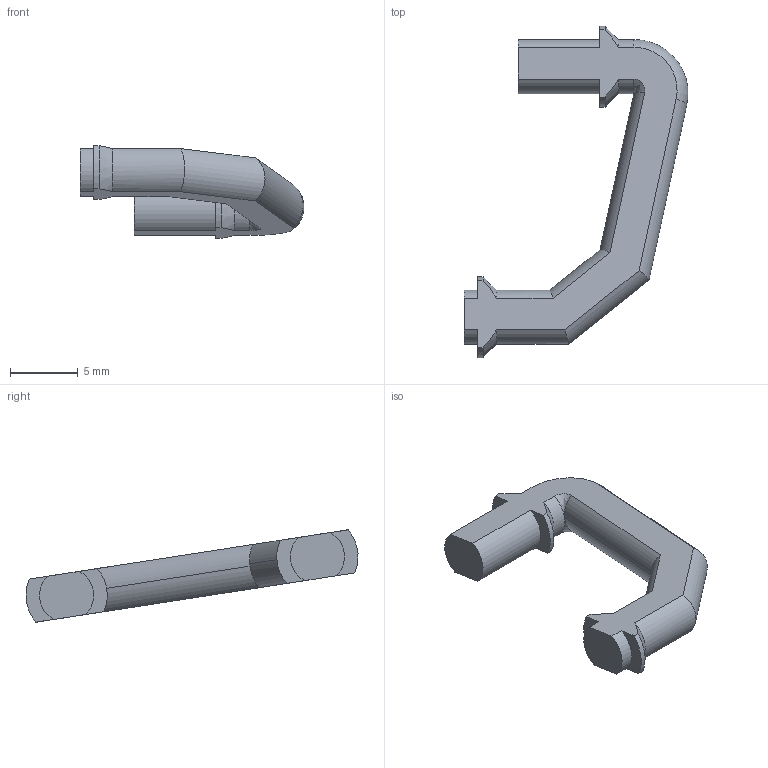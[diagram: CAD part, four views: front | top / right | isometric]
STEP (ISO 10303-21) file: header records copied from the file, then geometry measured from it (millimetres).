
FILE_DESCRIPTION (( 'STEP AP214' ), '1' );
FILE_NAME ('B1-pipe-Standard.step', '2023-08-03T13:48:13', ( '' ), ( '' ), 'SwSTEP 2.0', 'SolidWorks 2020', '' );
FILE_SCHEMA (( 'AUTOMOTIVE_DESIGN' ));
Length unit declared in the file: millimetre
Products named in the file (1): B1-pipe-Standard
Bounding box: 16.52 x 24.48 x 6.81 mm (x, y, z)
Volume: 442 mm3; surface area: 515.5 mm2
Topology: 1 solids, 1 shells, 33 faces, 94 edges, 61 vertices
Faces by surface type: cylinder 18, plane 8, cone 4, torus 3
Entity records: 1127 total; most frequent: CARTESIAN_POINT 248, ORIENTED_EDGE 184, DIRECTION 176, EDGE_CURVE 92, AXIS2_PLACEMENT_3D 65, VERTEX_POINT 61, LINE 46, VECTOR 46
